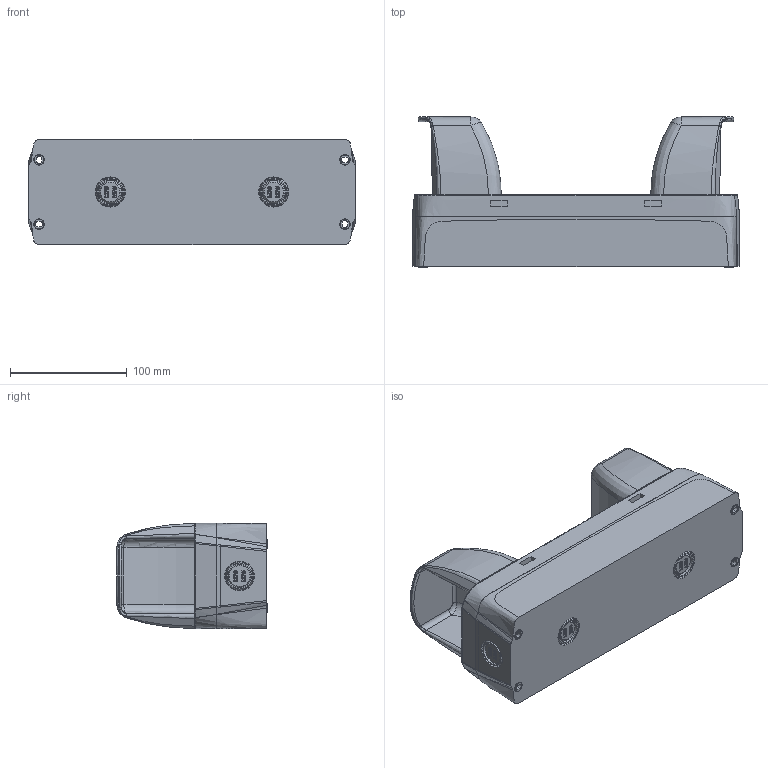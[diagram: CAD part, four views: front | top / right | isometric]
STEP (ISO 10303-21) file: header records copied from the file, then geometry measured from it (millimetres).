
FILE_DESCRIPTION (( 'STEP AP203' ), '1' );
FILE_NAME ('ZF_STEP_EA_37013_A12.step', '2012-12-03T07:55:06', ( 'Pizzato Elettrica' ), ( '' ), 'SwSTEP 2.0', 'SolidWorks 2011', '' );
FILE_SCHEMA (( 'CONFIG_CONTROL_DESIGN' ));
Length unit declared in the file: millimetre
Products named in the file (7): ZF_STEP_EA_37013_A12; ZF_STEP_VE_GG3AA9A_A12_25052; tassello_G; tassello_H; telaio_25001; tassello_C; Base_EL_2B1_25201
Assembly tree (11 placements, depth 2):
  ZF_STEP_EA_37013_A12
    tassello_H  x2
    ZF_STEP_VE_GG3AA9A_A12_25052  x2
    tassello_C  x3
    tassello_G  x2
    Base_EL_2B1_25201
    telaio_25001
Bounding box: 280 x 128.5 x 90.11 mm (x, y, z)
Volume: 1626381.2 mm3; surface area: 304375.9 mm2
Topology: 11 solids, 11 shells, 895 faces, 2356 edges, 1539 vertices
Faces by surface type: plane 452, bspline 246, cylinder 102, torus 54, cone 24, sphere 17
Entity records: 39404 total; most frequent: CARTESIAN_POINT 21464, ORIENTED_EDGE 3950, DIRECTION 2848, EDGE_CURVE 1975, VERTEX_POINT 1299, LINE 1046, VECTOR 1046, AXIS2_PLACEMENT_3D 901
